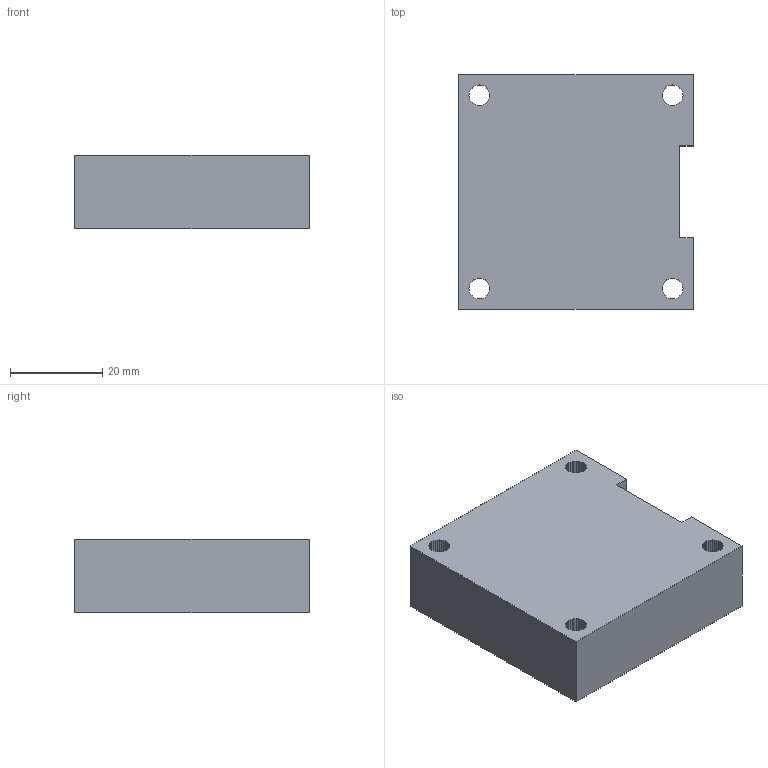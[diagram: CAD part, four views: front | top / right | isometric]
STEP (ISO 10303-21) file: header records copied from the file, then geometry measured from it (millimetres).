
FILE_DESCRIPTION(('Open CASCADE Model'),'2;1');
FILE_NAME('Open CASCADE Shape Model','2026-08-07T13:51:21',('Author'),( 'Open CASCADE'),'Open CASCADE STEP processor 7.9','Open CASCADE 7.9' ,'Unknown');
FILE_SCHEMA(('AUTOMOTIVE_DESIGN { 1 0 10303 214 1 1 1 1 }'));
Length unit declared in the file: millimetre
Products named in the file (1): 5015鼓風機(外購)
Bounding box: 51 x 51 x 16 mm (x, y, z)
Volume: 36006.3 mm3; surface area: 9583.2 mm2
Topology: 1 solids, 1 shells, 203 faces, 600 edges, 400 vertices
Faces by surface type: plane 203
Entity records: 14460 total; most frequent: CARTESIAN_POINT 2404, DIRECTION 2208, LINE 1800, VECTOR 1800, ORIENTED_EDGE 1200, PCURVE 1200, DEFINITIONAL_REPRESENTATION 1200, EDGE_CURVE 600
